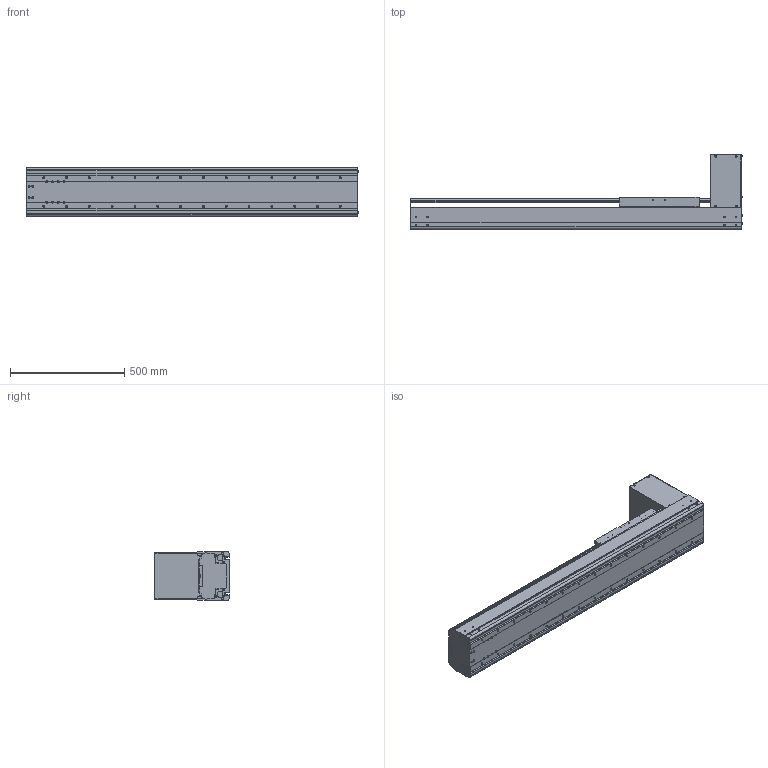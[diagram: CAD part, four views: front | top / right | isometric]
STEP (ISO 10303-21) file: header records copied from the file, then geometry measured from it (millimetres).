
FILE_DESCRIPTION((''),'2;1');
FILE_NAME('BE60J-BT-L19N-85_IGS_PRT','2017-06-18T',(' '),(''),'PRO/ENGINEER BY PARAMETRIC TECHNOLOGY CORPORATION, 2015030','PRO/ENGINEER BY PARAMETRIC TECHNOLOGY CORPORATION, 2015030','');
FILE_SCHEMA(('CONFIG_CONTROL_DESIGN'));
Products named in the file (1): BE60J-BT-L19N-85_IGS_PRT
Bounding box: 1454.4 x 327.5 x 214 mm (x, y, z)
Volume: 10683116.2 mm3; surface area: 3418971.5 mm2
Topology: 1 solids, 221 shells, 2036 faces, 5670 edges, 3762 vertices
Faces by surface type: cylinder 956, plane 810, cone 174, torus 48, sphere 48
Entity records: 67326 total; most frequent: CARTESIAN_POINT 15098, DIRECTION 10989, ORIENTED_EDGE 10264, EDGE_CURVE 5528, AXIS2_PLACEMENT_3D 4109, VERTEX_POINT 3750, VECTOR 2771, LINE 2771
